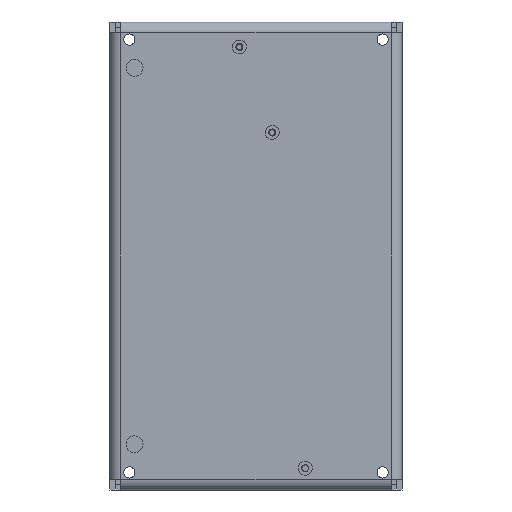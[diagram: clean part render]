
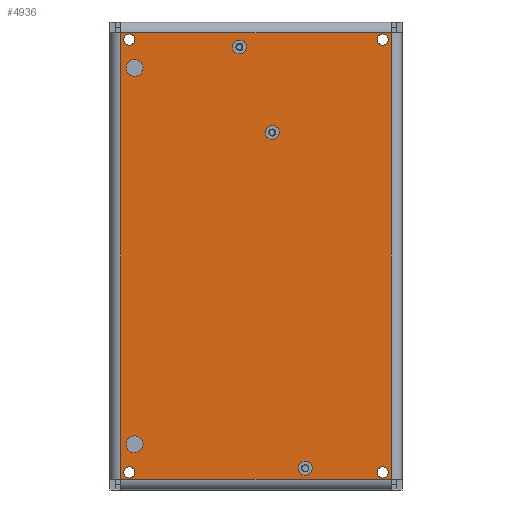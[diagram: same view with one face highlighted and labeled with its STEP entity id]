
A CAD part, front view. The second image highlights one B-rep face of the part: STEP entity #4936.
In plain terms, the highlighted planar face has unit normal (0, -1, 0).
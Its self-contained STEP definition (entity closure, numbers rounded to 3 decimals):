
#4936=ADVANCED_FACE('',(#10953,#10955,#10957,#10959,#10961,#10963,#10965,#10967,
#10969,#10971),#10973,.T.);
#10953=FACE_BOUND('',#10954,.T.);
#10954=EDGE_LOOP('',(#15490,#15491,#15492,#15493));
#10955=FACE_BOUND('',#10956,.T.);
#10956=EDGE_LOOP('',(#15494));
#10957=FACE_BOUND('',#10958,.T.);
#10958=EDGE_LOOP('',(#15495));
#10959=FACE_BOUND('',#10960,.T.);
#10960=EDGE_LOOP('',(#15496));
#10961=FACE_BOUND('',#10962,.T.);
#10962=EDGE_LOOP('',(#15497));
#10963=FACE_BOUND('',#10964,.T.);
#10964=EDGE_LOOP('',(#15498));
#10965=FACE_BOUND('',#10966,.T.);
#10966=EDGE_LOOP('',(#15499));
#10967=FACE_BOUND('',#10968,.T.);
#10968=EDGE_LOOP('',(#15500));
#10969=FACE_BOUND('',#10970,.T.);
#10970=EDGE_LOOP('',(#15501));
#10971=FACE_BOUND('',#10972,.T.);
#10972=EDGE_LOOP('',(#15502));
#10973=PLANE('',#10974);
#10974=AXIS2_PLACEMENT_3D('',#10975,#10976,#10977);
#10975=CARTESIAN_POINT('',(-41.5,0.,-66.5));
#10976=DIRECTION('',(0.,-1.,0.));
#10977=DIRECTION('',(0.,0.,-1.));
#15490=ORIENTED_EDGE('',*,*,#17740,.T.);
#15491=ORIENTED_EDGE('',*,*,#17507,.T.);
#15492=ORIENTED_EDGE('',*,*,#17303,.T.);
#15493=ORIENTED_EDGE('',*,*,#17505,.T.);
#15494=ORIENTED_EDGE('',*,*,#17741,.F.);
#15495=ORIENTED_EDGE('',*,*,#17742,.F.);
#15496=ORIENTED_EDGE('',*,*,#17743,.F.);
#15497=ORIENTED_EDGE('',*,*,#17744,.F.);
#15498=ORIENTED_EDGE('',*,*,#17745,.F.);
#15499=ORIENTED_EDGE('',*,*,#17746,.T.);
#15500=ORIENTED_EDGE('',*,*,#17747,.T.);
#15501=ORIENTED_EDGE('',*,*,#17748,.T.);
#15502=ORIENTED_EDGE('',*,*,#17749,.T.);
#17303=EDGE_CURVE('',#19027,#19065,#20054,.T.);
#17505=EDGE_CURVE('',#19065,#20320,#20321,.T.);
#17507=EDGE_CURVE('',#20323,#19027,#20324,.T.);
#17740=EDGE_CURVE('',#20320,#20323,#20690,.T.);
#17741=EDGE_CURVE('',#20691,#20691,#20692,.T.);
#17742=EDGE_CURVE('',#20693,#20693,#20694,.F.);
#17743=EDGE_CURVE('',#20695,#20695,#20696,.F.);
#17744=EDGE_CURVE('',#20697,#20697,#20698,.T.);
#17745=EDGE_CURVE('',#20699,#20699,#20700,.T.);
#17746=EDGE_CURVE('',#20701,#20701,#20702,.T.);
#17747=EDGE_CURVE('',#20703,#20703,#20704,.T.);
#17748=EDGE_CURVE('',#20705,#20705,#20706,.T.);
#17749=EDGE_CURVE('',#20707,#20707,#20708,.T.);
#19027=VERTEX_POINT('',#23596);
#19065=VERTEX_POINT('',#23686);
#20054=LINE('',#29509,#29510);
#20320=VERTEX_POINT('',#30983);
#20321=LINE('',#30984,#30985);
#20323=VERTEX_POINT('',#30991);
#20324=LINE('',#30992,#30993);
#20690=LINE('',#31928,#31929);
#20691=VERTEX_POINT('',#31931);
#20692=CIRCLE('',#31932,1.98);
#20693=VERTEX_POINT('',#31936);
#20694=CIRCLE('',#31937,2.4);
#20695=VERTEX_POINT('',#31941);
#20696=CIRCLE('',#31942,2.4);
#20697=VERTEX_POINT('',#31946);
#20698=CIRCLE('',#31947,1.98);
#20699=VERTEX_POINT('',#31951);
#20700=CIRCLE('',#31952,1.98);
#20701=VERTEX_POINT('',#31956);
#20702=CIRCLE('',#31957,1.6);
#20703=VERTEX_POINT('',#31961);
#20704=CIRCLE('',#31962,1.6);
#20705=VERTEX_POINT('',#31966);
#20706=CIRCLE('',#31967,1.6);
#20707=VERTEX_POINT('',#31971);
#20708=CIRCLE('',#31972,1.6);
#23596=CARTESIAN_POINT('',(38.5,0.,-63.5));
#23686=CARTESIAN_POINT('',(38.5,0.,63.5));
#29509=CARTESIAN_POINT('',(38.5,0.,-63.5));
#29510=VECTOR('',#29511,1.);
#29511=DIRECTION('',(0.,0.,1.));
#30983=CARTESIAN_POINT('',(-38.5,0.,63.5));
#30984=CARTESIAN_POINT('',(38.5,0.,63.5));
#30985=VECTOR('',#30986,1.);
#30986=DIRECTION('',(-1.,0.,0.));
#30991=CARTESIAN_POINT('',(-38.5,0.,-63.5));
#30992=CARTESIAN_POINT('',(-38.5,0.,-63.5));
#30993=VECTOR('',#30994,1.);
#30994=DIRECTION('',(1.,0.,0.));
#31928=CARTESIAN_POINT('',(-38.5,0.,63.5));
#31929=VECTOR('',#31930,1.);
#31930=DIRECTION('',(0.,0.,-1.));
#31931=CARTESIAN_POINT('',(-2.956,0.,60.338));
#31932=AXIS2_PLACEMENT_3D('',#31933,#31934,#31935);
#31933=CARTESIAN_POINT('',(-4.7,0.,59.4));
#31934=DIRECTION('',(0.,-1.,0.));
#31935=DIRECTION('',(0.881,0.,0.474));
#31936=CARTESIAN_POINT('',(-34.056,0.,51.141));
#31937=AXIS2_PLACEMENT_3D('',#31938,#31939,#31940);
#31938=CARTESIAN_POINT('',(-34.5,0.,53.5));
#31939=DIRECTION('',(-0.,1.,-0.));
#31940=DIRECTION('',(0.185,0.,-0.983));
#31941=CARTESIAN_POINT('',(-36.716,0.,-52.578));
#31942=AXIS2_PLACEMENT_3D('',#31943,#31944,#31945);
#31943=CARTESIAN_POINT('',(-34.5,0.,-53.5));
#31944=DIRECTION('',(-0.,1.,-0.));
#31945=DIRECTION('',(-0.923,-0.,0.384));
#31946=CARTESIAN_POINT('',(6.157,0.,33.877));
#31947=AXIS2_PLACEMENT_3D('',#31948,#31949,#31950);
#31948=CARTESIAN_POINT('',(4.6,0.,35.1));
#31949=DIRECTION('',(0.,-1.,0.));
#31950=DIRECTION('',(0.786,0.,-0.618));
#31951=CARTESIAN_POINT('',(15.98,0.,-60.3));
#31952=AXIS2_PLACEMENT_3D('',#31953,#31954,#31955);
#31953=CARTESIAN_POINT('',(14.,0.,-60.3));
#31954=DIRECTION('',(0.,-1.,0.));
#31955=DIRECTION('',(1.,0.,0.));
#31956=CARTESIAN_POINT('',(36.,0.,63.1));
#31957=AXIS2_PLACEMENT_3D('',#31958,#31959,#31960);
#31958=CARTESIAN_POINT('',(36.,0.,61.5));
#31959=DIRECTION('',(-0.,1.,-0.));
#31960=DIRECTION('',(0.,0.,-1.));
#31961=CARTESIAN_POINT('',(-36.,0.,63.1));
#31962=AXIS2_PLACEMENT_3D('',#31963,#31964,#31965);
#31963=CARTESIAN_POINT('',(-36.,0.,61.5));
#31964=DIRECTION('',(-0.,1.,-0.));
#31965=DIRECTION('',(0.,0.,-1.));
#31966=CARTESIAN_POINT('',(-36.,0.,-59.9));
#31967=AXIS2_PLACEMENT_3D('',#31968,#31969,#31970);
#31968=CARTESIAN_POINT('',(-36.,0.,-61.5));
#31969=DIRECTION('',(-0.,1.,-0.));
#31970=DIRECTION('',(0.,0.,-1.));
#31971=CARTESIAN_POINT('',(36.,0.,-59.9));
#31972=AXIS2_PLACEMENT_3D('',#31973,#31974,#31975);
#31973=CARTESIAN_POINT('',(36.,0.,-61.5));
#31974=DIRECTION('',(-0.,1.,-0.));
#31975=DIRECTION('',(0.,0.,-1.));
